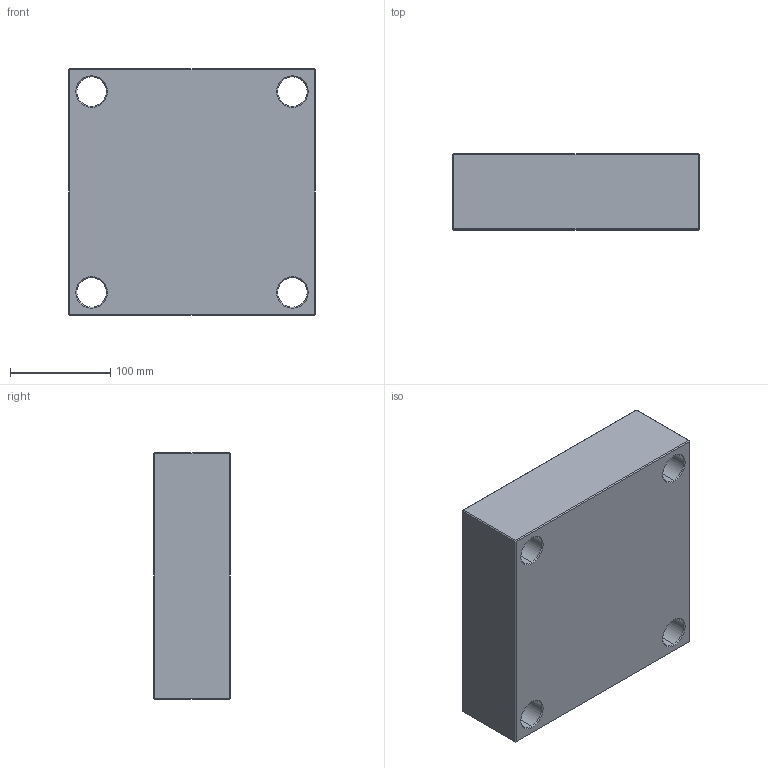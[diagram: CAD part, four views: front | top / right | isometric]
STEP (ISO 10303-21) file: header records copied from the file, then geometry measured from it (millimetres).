
FILE_DESCRIPTION (( 'STEP AP214' ), '1' );
FILE_NAME ('PCX-246x246x76.STEP', '2020-04-30T17:10:04', ( 'August' ), ( '' ), 'SwSTEP 2.0', 'SolidWorks 2018', '' );
FILE_SCHEMA (( 'AUTOMOTIVE_DESIGN' ));
Length unit declared in the file: millimetre
Products named in the file (1): PCX-246x246x76
Bounding box: 246 x 76 x 246 mm (x, y, z)
Volume: 4371810.6 mm3; surface area: 220716.9 mm2
Topology: 1 solids, 1 shells, 82 faces, 168 edges, 96 vertices
Faces by surface type: plane 34, cone 24, cylinder 24
Entity records: 2170 total; most frequent: DIRECTION 406, CARTESIAN_POINT 347, ORIENTED_EDGE 336, EDGE_CURVE 168, AXIS2_PLACEMENT_3D 155, EDGE_LOOP 98, VECTOR 96, LINE 96
